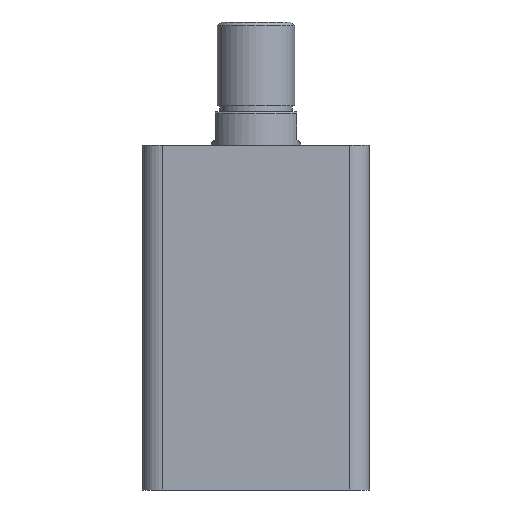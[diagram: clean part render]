
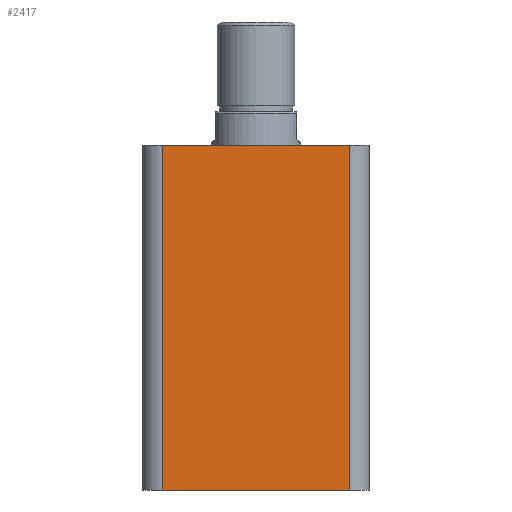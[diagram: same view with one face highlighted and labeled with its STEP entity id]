
A CAD part, front view. The second image highlights one B-rep face of the part: STEP entity #2417.
In plain terms, the highlighted planar face has unit normal (0, -1, 0).
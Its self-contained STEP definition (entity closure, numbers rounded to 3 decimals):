
#79 = ORIENTED_EDGE ( 'NONE', *, *, #693, .T. ) ;
#96 = ORIENTED_EDGE ( 'NONE', *, *, #695, .F. ) ;
#329 = DIRECTION ( 'NONE',  ( 0., 0., -1. ) ) ;
#331 = DIRECTION ( 'NONE',  ( 1., 0., 0. ) ) ;
#332 = CARTESIAN_POINT ( 'NONE',  ( -57., -57., 173. ) ) ;
#338 = DIRECTION ( 'NONE',  ( 0., 0., 1. ) ) ;
#340 = DIRECTION ( 'NONE',  ( 1., 0., 0. ) ) ;
#341 = CARTESIAN_POINT ( 'NONE',  ( -47., -57., 173. ) ) ;
#350 = CARTESIAN_POINT ( 'NONE',  ( -57., -57., 0. ) ) ;
#357 = CARTESIAN_POINT ( 'NONE',  ( 47., -57., 173. ) ) ;
#438 = VECTOR ( 'NONE', #329, 1000. ) ;
#439 = LINE ( 'NONE', #341, #438 ) ;
#441 = VECTOR ( 'NONE', #331, 1000. ) ;
#443 = VECTOR ( 'NONE', #338, 1000. ) ;
#444 = LINE ( 'NONE', #357, #443 ) ;
#445 = LINE ( 'NONE', #332, #441 ) ;
#446 = VECTOR ( 'NONE', #340, 1000. ) ;
#517 = CARTESIAN_POINT ( 'NONE',  ( -47., -57., 0. ) ) ;
#526 = CARTESIAN_POINT ( 'NONE',  ( 47., -57., 0. ) ) ;
#527 = CARTESIAN_POINT ( 'NONE',  ( -47., -57., 173. ) ) ;
#528 = CARTESIAN_POINT ( 'NONE',  ( 47., -57., 173. ) ) ;
#693 = EDGE_CURVE ( 'NONE', #1618, #1627, #2754, .T. ) ;
#694 = EDGE_CURVE ( 'NONE', #1627, #1629, #444, .T. ) ;
#695 = EDGE_CURVE ( 'NONE', #1628, #1629, #445, .T. ) ;
#696 = EDGE_CURVE ( 'NONE', #1628, #1618, #439, .T. ) ;
#856 = CARTESIAN_POINT ( 'NONE',  ( -57., -57., 173. ) ) ;
#859 = PLANE ( 'NONE',  #2052 ) ;
#861 = DIRECTION ( 'NONE',  ( 0., 1., 0. ) ) ;
#862 = DIRECTION ( 'NONE',  ( 0., 0., 1. ) ) ;
#1510 = ORIENTED_EDGE ( 'NONE', *, *, #694, .T. ) ;
#1618 = VERTEX_POINT ( 'NONE', #517 ) ;
#1627 = VERTEX_POINT ( 'NONE', #526 ) ;
#1628 = VERTEX_POINT ( 'NONE', #527 ) ;
#1629 = VERTEX_POINT ( 'NONE', #528 ) ;
#2052 = AXIS2_PLACEMENT_3D ( 'NONE', #856, #861, #862 ) ;
#2177 = EDGE_LOOP ( 'NONE', ( #79, #1510, #96, #2287 ) ) ;
#2287 = ORIENTED_EDGE ( 'NONE', *, *, #696, .T. ) ;
#2417 = ADVANCED_FACE ( 'NONE', ( #2683 ), #859, .F. ) ;
#2683 = FACE_OUTER_BOUND ( 'NONE', #2177, .T. ) ;
#2754 = LINE ( 'NONE', #350, #446 ) ;
